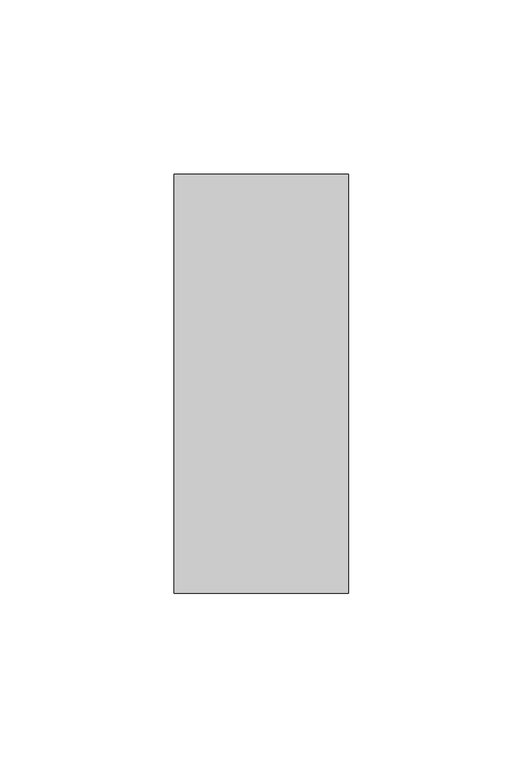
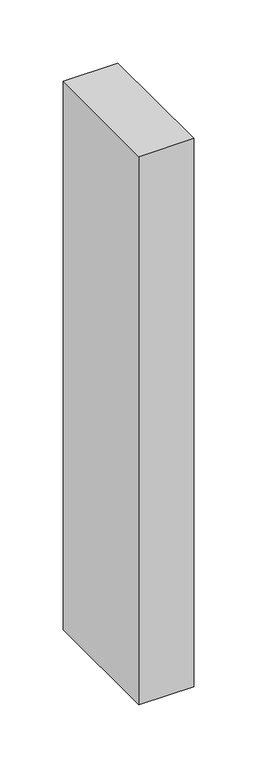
"""IFC4 building model written with IfcOpenShell, lengths in millimetres: member geometry, Прямоугольный импост : 50х120 мм."""

from ifc_helpers import new_model, si_unit, frame, origin, place, context, project, spatial, polyline, outline, extrude, source, transform, mapped, element, save


def member_97a6f101(model_context):
    return source(origin(), model_context, "Body", "SweptSolid", [
        extrude(outline(polyline([(0.0, 60.0), (0.0, -60.0), (-50.0, -60.0), (-50.0, 60.0), (0.0, 60.0)])), frame((0.0, 0.0, -530.0), z_axis=(0.0, 0.0, 1.0), x_axis=(1.0, 0.0, 0.0)), (0.0, 0.0, 1.0), 530.0),
    ])


if __name__ == "__main__":
    model = new_model("IFC4")
    model_context = context("Model", 3, world=origin())
    ifc_project = project(units=[si_unit("LENGTHUNIT", "METRE", prefix="MILLI")], contexts=[model_context])
    site = spatial("IfcSite", under=ifc_project)
    building = spatial("IfcBuilding", under=site)
    placement = place(None, origin())
    member_shape = member_97a6f101(model_context)
    element("IfcMember", 1, ObjectType="Прямоугольный импост : 50х120 мм", at=placement, inside=building, context=model_context, shape_type="MappedRepresentation", body=[
        mapped(member_shape, transform((0.0, 0.0, 0.0), x_axis=(1.0, 0.0, 0.0), y_axis=(0.0, 1.0, 0.0), z_axis=(0.0, 0.0, 1.0))),
    ])
    save(model, "model.ifc")
